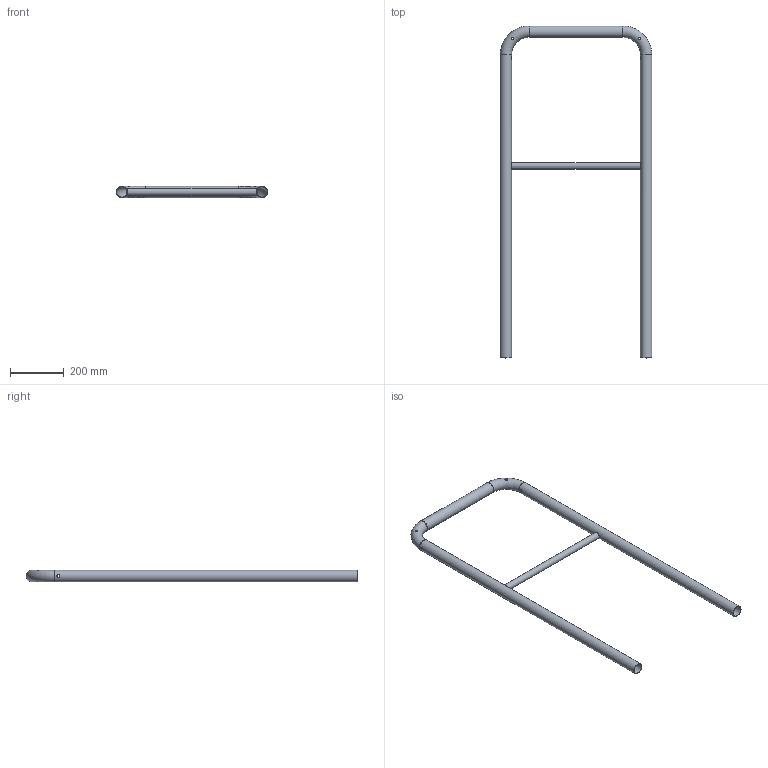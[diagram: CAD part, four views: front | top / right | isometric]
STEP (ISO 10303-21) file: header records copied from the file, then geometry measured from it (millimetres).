
FILE_DESCRIPTION((''),'2;1');
FILE_NAME('S:\Användarkataloger\AndreasA\Mina Inventor filer\Räcken\STEP\modul_ind_600-1216.stp','2010-09-07T13:15:06',('AndreasA'),(''),'Autodesk Inventor 2011','Autodesk Inventor 2011','');
FILE_SCHEMA(('AUTOMOTIVE_DESIGN { 1 0 10303 214 1 1 1 1 }'));
Length unit declared in the file: millimetre
Products named in the file (3): modul_ind_600-1216; handledare_modul_600-1216; mellanliggare_modul_600
Assembly tree (2 placements, depth 2):
  modul_ind_600-1216
    handledare_modul_600-1216
    mellanliggare_modul_600
Bounding box: 565.4 x 1237.2 x 42.4 mm (x, y, z)
Volume: 799303.2 mm3; surface area: 800637.2 mm2
Topology: 2 solids, 2 shells, 24 faces, 64 edges, 40 vertices
Faces by surface type: cylinder 16, torus 4, plane 4
Full cylindrical faces by diameter (mm): 10 x4, 11 x4, 21 x1, 25 x1, 38.4 x3, 42.4 x3
Entity records: 1354 total; most frequent: CARTESIAN_POINT 809, DIRECTION 90, ORIENTED_EDGE 64, EDGE_LOOP 64, AXIS2_PLACEMENT_3D 45, FACE_BOUND 40, VERTEX_POINT 32, EDGE_CURVE 32
